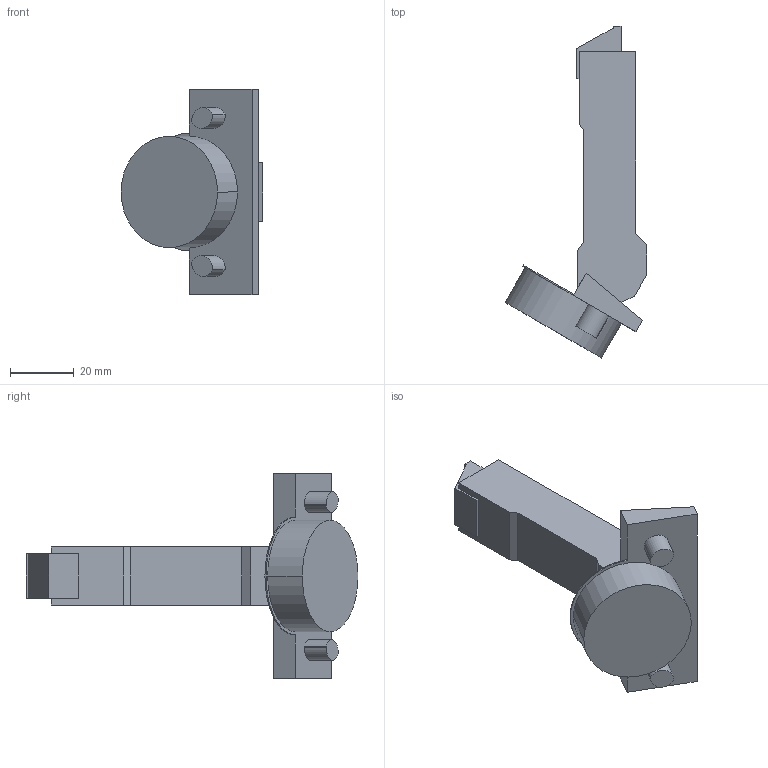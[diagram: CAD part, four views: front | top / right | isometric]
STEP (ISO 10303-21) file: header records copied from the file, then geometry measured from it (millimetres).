
FILE_DESCRIPTION (( 'STEP AP214' ), '1' );
FILE_NAME ('Scharnier TS Impresso 110°_+30° MB_BB, aufliegend, KMPL-37, H00.step', '2018-09-19T13:18:12', ( '' ), ( '' ), 'SwSTEP 2.0', 'SolidWorks 2017', '' );
FILE_SCHEMA (( 'AUTOMOTIVE_DESIGN' ));
Length unit declared in the file: millimetre
Products named in the file (1): Scharnier TS Impresso 110°_+30° MB_BB, aufliegend, KMPL-37, H00
Bounding box: 44.59 x 104.36 x 64.5 mm (x, y, z)
Volume: 47004.7 mm3; surface area: 12772.9 mm2
Topology: 1 solids, 1 shells, 52 faces, 132 edges, 88 vertices
Faces by surface type: plane 37, cylinder 15
Entity records: 1600 total; most frequent: CARTESIAN_POINT 273, DIRECTION 268, ORIENTED_EDGE 264, EDGE_CURVE 132, VECTOR 102, LINE 102, VERTEX_POINT 88, AXIS2_PLACEMENT_3D 83
